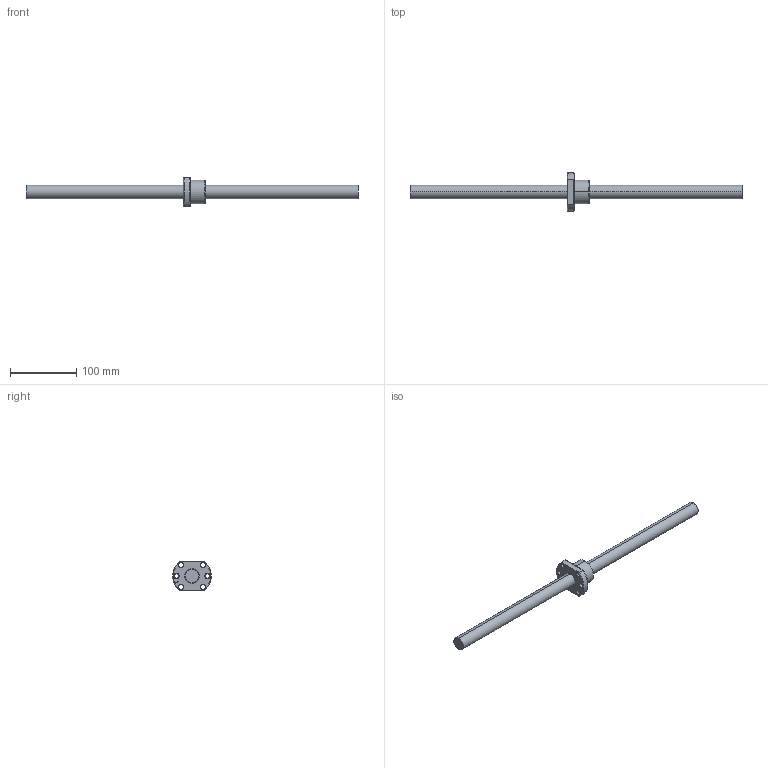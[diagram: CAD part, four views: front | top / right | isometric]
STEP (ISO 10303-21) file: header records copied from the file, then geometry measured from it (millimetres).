
FILE_DESCRIPTION (( 'STEP AP203' ), '1' );
FILE_NAME ('SFB2005-3.8.STEP', '2024-08-13T03:06:12', ( '' ), ( '' ), 'SwSTEP 2.0', 'SolidWorks 2022', '' );
FILE_SCHEMA (( 'CONFIG_CONTROL_DESIGN' ));
Length unit declared in the file: millimetre
Products named in the file (1): SFB2005-3.8
Bounding box: 500 x 58 x 44 mm (x, y, z)
Volume: 188151.2 mm3; surface area: 43236 mm2
Topology: 2 solids, 2 shells, 85 faces, 220 edges, 140 vertices
Faces by surface type: cylinder 35, cone 26, plane 12, bspline 6, torus 6
Entity records: 6018 total; most frequent: CARTESIAN_POINT 3935, ORIENTED_EDGE 440, DIRECTION 399, EDGE_CURVE 220, AXIS2_PLACEMENT_3D 162, VERTEX_POINT 140, EDGE_LOOP 102, FACE_OUTER_BOUND 85
